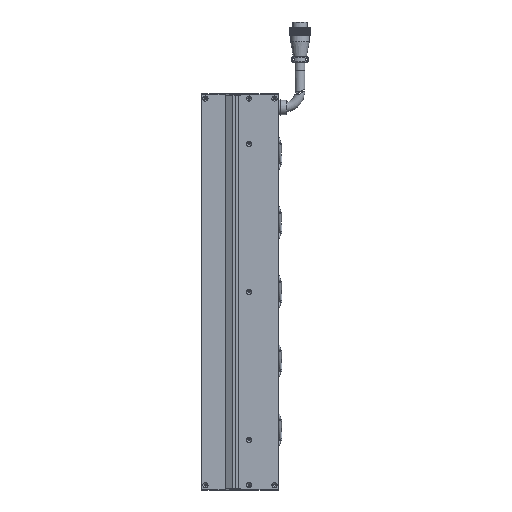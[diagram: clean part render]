
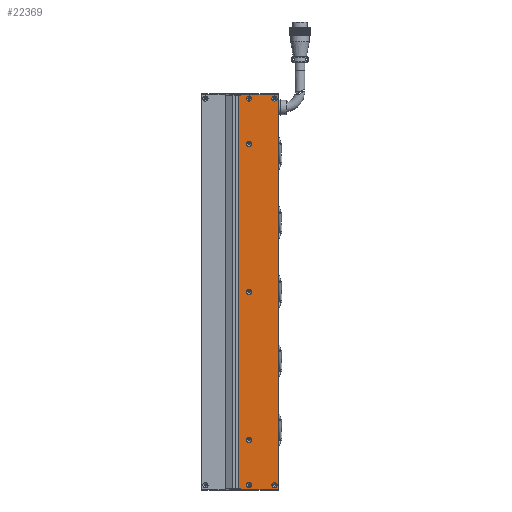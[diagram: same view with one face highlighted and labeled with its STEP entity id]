
A CAD part, left-side view. The second image highlights one B-rep face of the part: STEP entity #22369.
In plain terms, the highlighted planar face has unit normal (-1, 0, 0).
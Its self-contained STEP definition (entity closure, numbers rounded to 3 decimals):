
#2173 = FACE_BOUND ( 'NONE', #102503, .T. ) ;
#2259 = DIRECTION ( 'NONE',  ( -1., 0., 0. ) ) ;
#3605 = EDGE_CURVE ( 'NONE', #102504, #103881, #110344, .T. ) ;
#3820 = DIRECTION ( 'NONE',  ( -1., 0., 0. ) ) ;
#4777 = ORIENTED_EDGE ( 'NONE', *, *, #12680, .T. ) ;
#4934 = CIRCLE ( 'NONE', #12202, 3.15 ) ;
#5299 = ORIENTED_EDGE ( 'NONE', *, *, #91710, .T. ) ;
#6080 = EDGE_LOOP ( 'NONE', ( #18737 ) ) ;
#6358 = ORIENTED_EDGE ( 'NONE', *, *, #91970, .F. ) ;
#9593 = VERTEX_POINT ( 'NONE', #106203 ) ;
#10647 = AXIS2_PLACEMENT_3D ( 'NONE', #16670, #41343, #58403 ) ;
#11953 = AXIS2_PLACEMENT_3D ( 'NONE', #28154, #79108, #53107 ) ;
#12202 = AXIS2_PLACEMENT_3D ( 'NONE', #94062, #25197, #102555 ) ;
#12680 = EDGE_CURVE ( 'NONE', #84916, #9593, #77275, .T. ) ;
#13647 = VERTEX_POINT ( 'NONE', #83182 ) ;
#16670 = CARTESIAN_POINT ( 'NONE',  ( -24.998, -36.5, -180. ) ) ;
#17111 = VERTEX_POINT ( 'NONE', #65282 ) ;
#17760 = EDGE_CURVE ( 'NONE', #74701, #74701, #94549, .T. ) ;
#18737 = ORIENTED_EDGE ( 'NONE', *, *, #98189, .F. ) ;
#20193 = CIRCLE ( 'NONE', #60160, 3.15 ) ;
#20797 = DIRECTION ( 'NONE',  ( 0., 0., 1. ) ) ;
#20917 = ORIENTED_EDGE ( 'NONE', *, *, #84154, .T. ) ;
#21011 = EDGE_LOOP ( 'NONE', ( #58437 ) ) ;
#21323 = EDGE_CURVE ( 'NONE', #105362, #105362, #103355, .T. ) ;
#22369 = ADVANCED_FACE ( 'NONE', ( #56724, #2173, #84708, #31446, #36806, #51397, #73989, #107341 ), #54791, .F. ) ;
#22602 = LINE ( 'NONE', #45323, #82524 ) ;
#22708 = CIRCLE ( 'NONE', #56666, 3.15 ) ;
#25197 = DIRECTION ( 'NONE',  ( -1., 0., 0. ) ) ;
#25447 = ORIENTED_EDGE ( 'NONE', *, *, #3605, .F. ) ;
#27311 = DIRECTION ( 'NONE',  ( 0., 1., 0. ) ) ;
#27547 = DIRECTION ( 'NONE',  ( 0., 0., 1. ) ) ;
#28154 = CARTESIAN_POINT ( 'NONE',  ( -24.998, -36.5, 235. ) ) ;
#28188 = ORIENTED_EDGE ( 'NONE', *, *, #39639, .T. ) ;
#28314 = DIRECTION ( 'NONE',  ( 0., -1., 0. ) ) ;
#29917 = EDGE_CURVE ( 'NONE', #9593, #105735, #59210, .T. ) ;
#30822 = CARTESIAN_POINT ( 'NONE',  ( -24.998, -36.5, 238.15 ) ) ;
#31446 = FACE_BOUND ( 'NONE', #55937, .T. ) ;
#32504 = ORIENTED_EDGE ( 'NONE', *, *, #57218, .F. ) ;
#32747 = CARTESIAN_POINT ( 'NONE',  ( -24.998, -23.25, 239. ) ) ;
#32883 = VECTOR ( 'NONE', #39717, 1000. ) ;
#34060 = ORIENTED_EDGE ( 'NONE', *, *, #21323, .F. ) ;
#34667 = CIRCLE ( 'NONE', #10647, 3.15 ) ;
#35347 = CARTESIAN_POINT ( 'NONE',  ( -24.998, -72., -240.5 ) ) ;
#36113 = VERTEX_POINT ( 'NONE', #67569 ) ;
#36806 = FACE_BOUND ( 'NONE', #63492, .T. ) ;
#37118 = LINE ( 'NONE', #88233, #96954 ) ;
#38660 = EDGE_CURVE ( 'NONE', #45402, #45402, #34667, .T. ) ;
#39146 = CARTESIAN_POINT ( 'NONE',  ( -24.998, -72.5, 239. ) ) ;
#39639 = EDGE_CURVE ( 'NONE', #102504, #40477, #49268, .T. ) ;
#39717 = DIRECTION ( 'NONE',  ( 0., 0., -1. ) ) ;
#40477 = VERTEX_POINT ( 'NONE', #86657 ) ;
#41343 = DIRECTION ( 'NONE',  ( -1., 0., 0. ) ) ;
#41902 = ORIENTED_EDGE ( 'NONE', *, *, #29917, .T. ) ;
#42449 = LINE ( 'NONE', #81910, #58434 ) ;
#43354 = EDGE_LOOP ( 'NONE', ( #34060 ) ) ;
#45323 = CARTESIAN_POINT ( 'NONE',  ( -24.998, -72., 239. ) ) ;
#45402 = VERTEX_POINT ( 'NONE', #83616 ) ;
#45667 = DIRECTION ( 'NONE',  ( -1., 0., 0. ) ) ;
#47698 = DIRECTION ( 'NONE',  ( 1., 0., 0. ) ) ;
#47711 = CARTESIAN_POINT ( 'NONE',  ( -24.998, -67.5, -235. ) ) ;
#49268 = LINE ( 'NONE', #106193, #75812 ) ;
#49781 = AXIS2_PLACEMENT_3D ( 'NONE', #39146, #47698, #64742 ) ;
#51397 = FACE_BOUND ( 'NONE', #21011, .T. ) ;
#51435 = ORIENTED_EDGE ( 'NONE', *, *, #90775, .F. ) ;
#51775 = VERTEX_POINT ( 'NONE', #55672 ) ;
#53107 = DIRECTION ( 'NONE',  ( 0., 0., 1. ) ) ;
#53610 = EDGE_CURVE ( 'NONE', #36113, #36113, #20193, .T. ) ;
#54791 = PLANE ( 'NONE',  #49781 ) ;
#55672 = CARTESIAN_POINT ( 'NONE',  ( -24.998, -36.5, 183.15 ) ) ;
#55937 = EDGE_LOOP ( 'NONE', ( #6358 ) ) ;
#56666 = AXIS2_PLACEMENT_3D ( 'NONE', #104944, #2259, #20797 ) ;
#56724 = FACE_BOUND ( 'NONE', #91558, .T. ) ;
#57141 = CARTESIAN_POINT ( 'NONE',  ( -24.998, -26.5, -232. ) ) ;
#57218 = EDGE_CURVE ( 'NONE', #103881, #105735, #42449, .T. ) ;
#58403 = DIRECTION ( 'NONE',  ( 0., 0., 1. ) ) ;
#58434 = VECTOR ( 'NONE', #75150, 1000. ) ;
#58437 = ORIENTED_EDGE ( 'NONE', *, *, #53610, .F. ) ;
#59210 = LINE ( 'NONE', #76340, #101799 ) ;
#60160 = AXIS2_PLACEMENT_3D ( 'NONE', #47711, #3820, #107200 ) ;
#61238 = CIRCLE ( 'NONE', #97458, 3.15 ) ;
#63492 = EDGE_LOOP ( 'NONE', ( #99296 ) ) ;
#63946 = CARTESIAN_POINT ( 'NONE',  ( -24.998, -72., 240.5 ) ) ;
#64742 = DIRECTION ( 'NONE',  ( 0., 0., -1. ) ) ;
#64996 = CARTESIAN_POINT ( 'NONE',  ( -24.998, -36.5, 3.15 ) ) ;
#65282 = CARTESIAN_POINT ( 'NONE',  ( -24.998, -36.5, -231.85 ) ) ;
#65777 = ORIENTED_EDGE ( 'NONE', *, *, #38660, .F. ) ;
#66809 = EDGE_LOOP ( 'NONE', ( #28188, #20917, #77151, #5299, #4777, #41902, #32504, #25447 ) ) ;
#67569 = CARTESIAN_POINT ( 'NONE',  ( -24.998, -67.5, -231.85 ) ) ;
#71879 = DIRECTION ( 'NONE',  ( 0., 0., -1. ) ) ;
#73110 = DIRECTION ( 'NONE',  ( 0., 0., 1. ) ) ;
#73989 = FACE_BOUND ( 'NONE', #6080, .T. ) ;
#74701 = VERTEX_POINT ( 'NONE', #64996 ) ;
#75150 = DIRECTION ( 'NONE',  ( 0., -1., 0. ) ) ;
#75812 = VECTOR ( 'NONE', #81265, 1000. ) ;
#76340 = CARTESIAN_POINT ( 'NONE',  ( -24.998, -26.5, 232. ) ) ;
#76859 = CARTESIAN_POINT ( 'NONE',  ( -24.998, -36.5, 0. ) ) ;
#77151 = ORIENTED_EDGE ( 'NONE', *, *, #97107, .T. ) ;
#77275 = LINE ( 'NONE', #87972, #94621 ) ;
#79108 = DIRECTION ( 'NONE',  ( -1., 0., 0. ) ) ;
#81249 = CARTESIAN_POINT ( 'NONE',  ( -24.998, -23.25, -239. ) ) ;
#81265 = DIRECTION ( 'NONE',  ( 0., -1., 0. ) ) ;
#81910 = CARTESIAN_POINT ( 'NONE',  ( -24.998, -72.5, 239. ) ) ;
#82474 = VERTEX_POINT ( 'NONE', #35347 ) ;
#82524 = VECTOR ( 'NONE', #104809, 1000. ) ;
#83182 = CARTESIAN_POINT ( 'NONE',  ( -24.998, -26.5, -240.5 ) ) ;
#83616 = CARTESIAN_POINT ( 'NONE',  ( -24.998, -36.5, -176.85 ) ) ;
#83656 = AXIS2_PLACEMENT_3D ( 'NONE', #76859, #45667, #73110 ) ;
#84154 = EDGE_CURVE ( 'NONE', #40477, #13647, #98078, .T. ) ;
#84165 = CARTESIAN_POINT ( 'NONE',  ( -24.998, -23.25, -239. ) ) ;
#84708 = FACE_BOUND ( 'NONE', #43354, .T. ) ;
#84916 = VERTEX_POINT ( 'NONE', #63946 ) ;
#85396 = DIRECTION ( 'NONE',  ( -1., 0., 0. ) ) ;
#86657 = CARTESIAN_POINT ( 'NONE',  ( -24.998, -26.5, -239. ) ) ;
#87972 = CARTESIAN_POINT ( 'NONE',  ( -24.998, -72.5, 240.5 ) ) ;
#88233 = CARTESIAN_POINT ( 'NONE',  ( -24.998, -72.5, -240.5 ) ) ;
#89591 = CARTESIAN_POINT ( 'NONE',  ( -24.998, -26.5, 239. ) ) ;
#89943 = CARTESIAN_POINT ( 'NONE',  ( -24.998, -67.5, 238.15 ) ) ;
#90775 = EDGE_CURVE ( 'NONE', #94399, #94399, #22708, .T. ) ;
#91558 = EDGE_LOOP ( 'NONE', ( #65777 ) ) ;
#91710 = EDGE_CURVE ( 'NONE', #82474, #84916, #22602, .T. ) ;
#91970 = EDGE_CURVE ( 'NONE', #51775, #51775, #61238, .T. ) ;
#92846 = CARTESIAN_POINT ( 'NONE',  ( -24.998, -36.5, 180. ) ) ;
#94062 = CARTESIAN_POINT ( 'NONE',  ( -24.998, -36.5, -235. ) ) ;
#94399 = VERTEX_POINT ( 'NONE', #89943 ) ;
#94549 = CIRCLE ( 'NONE', #83656, 3.15 ) ;
#94621 = VECTOR ( 'NONE', #27311, 1000. ) ;
#96954 = VECTOR ( 'NONE', #28314, 1000. ) ;
#97107 = EDGE_CURVE ( 'NONE', #13647, #82474, #37118, .T. ) ;
#97458 = AXIS2_PLACEMENT_3D ( 'NONE', #92846, #85396, #101701 ) ;
#98078 = LINE ( 'NONE', #57141, #32883 ) ;
#98189 = EDGE_CURVE ( 'NONE', #17111, #17111, #4934, .T. ) ;
#99296 = ORIENTED_EDGE ( 'NONE', *, *, #17760, .F. ) ;
#101701 = DIRECTION ( 'NONE',  ( 0., 0., 1. ) ) ;
#101799 = VECTOR ( 'NONE', #71879, 1000. ) ;
#102503 = EDGE_LOOP ( 'NONE', ( #51435 ) ) ;
#102504 = VERTEX_POINT ( 'NONE', #84165 ) ;
#102555 = DIRECTION ( 'NONE',  ( 0., 0., 1. ) ) ;
#103355 = CIRCLE ( 'NONE', #11953, 3.15 ) ;
#103881 = VERTEX_POINT ( 'NONE', #32747 ) ;
#104809 = DIRECTION ( 'NONE',  ( 0., 0., 1. ) ) ;
#104944 = CARTESIAN_POINT ( 'NONE',  ( -24.998, -67.5, 235. ) ) ;
#105362 = VERTEX_POINT ( 'NONE', #30822 ) ;
#105735 = VERTEX_POINT ( 'NONE', #89591 ) ;
#106193 = CARTESIAN_POINT ( 'NONE',  ( -24.998, -72.5, -239. ) ) ;
#106203 = CARTESIAN_POINT ( 'NONE',  ( -24.998, -26.5, 240.5 ) ) ;
#107200 = DIRECTION ( 'NONE',  ( 0., 0., 1. ) ) ;
#107341 = FACE_OUTER_BOUND ( 'NONE', #66809, .T. ) ;
#107644 = VECTOR ( 'NONE', #27547, 1000. ) ;
#110344 = LINE ( 'NONE', #81249, #107644 ) ;
